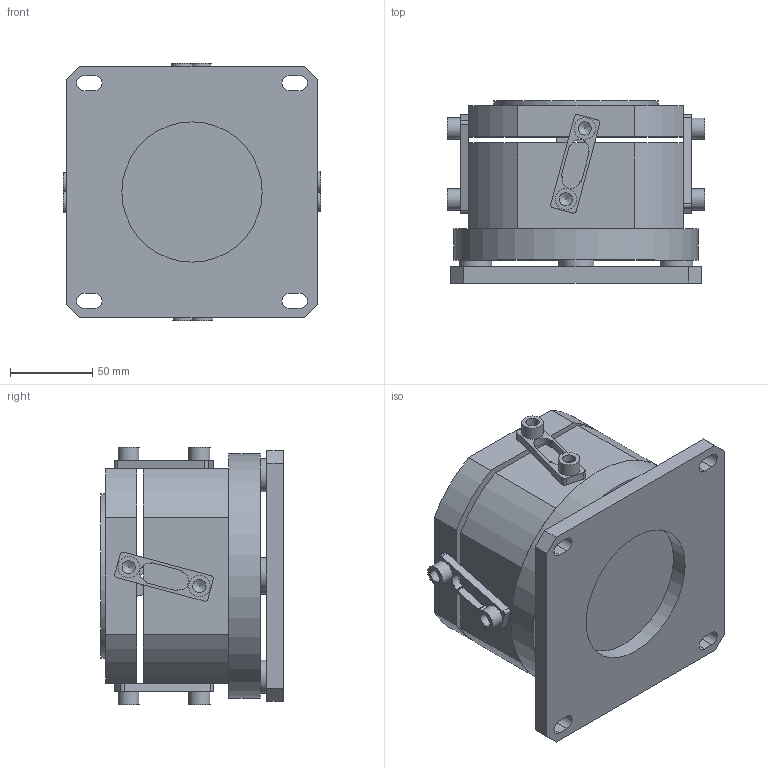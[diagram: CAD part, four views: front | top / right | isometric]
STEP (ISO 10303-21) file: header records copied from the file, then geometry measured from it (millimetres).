
FILE_DESCRIPTION(/* description */ (''),/* implementation_level */ '2;1');
FILE_NAME(/* name */ 'JMA-150.stp',/* time_stamp */ '2022-04-19T11:18:54+08:00',/* author */ (''),/* organization */ (''),/* preprocessor_version */ 'ST-DEVELOPER v18.102',/* originating_system */ 'SIEMENS PLM Software NX 2019',/* authorisation */ '');
FILE_SCHEMA (('AUTOMOTIVE_DESIGN { 1 0 10303 214 3 1 1 1 }'));
Length unit declared in the file: millimetre
Products named in the file (1): JMA-150_stp_objects
Bounding box: 156 x 110.7 x 156 mm (x, y, z)
Volume: 1655730 mm3; surface area: 219833.3 mm2
Topology: 21 solids, 21 shells, 217 faces, 525 edges, 350 vertices
Faces by surface type: plane 106, cylinder 103, cone 8
Full cylindrical faces by diameter (mm): 7 x8, 8 x8, 13 x8, 20 x4, 85 x1, 100 x1, 148 x1
Entity records: 6309 total; most frequent: DIRECTION 1104, CARTESIAN_POINT 1054, ORIENTED_EDGE 940, EDGE_CURVE 470, AXIS2_PLACEMENT_3D 424, VERTEX_POINT 342, EDGE_LOOP 290, LINE 256
